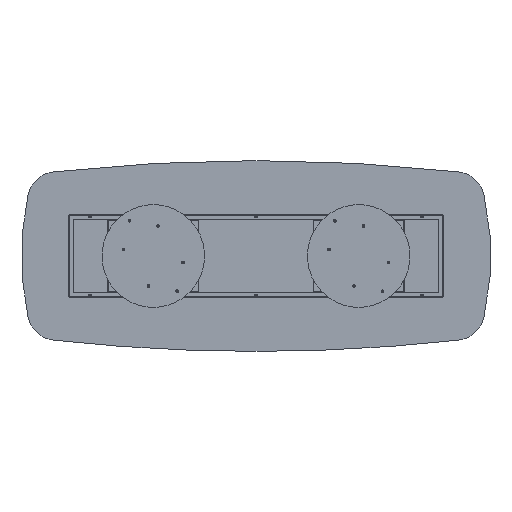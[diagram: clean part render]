
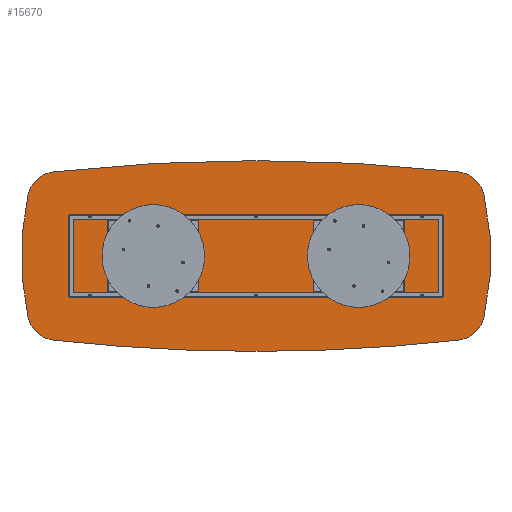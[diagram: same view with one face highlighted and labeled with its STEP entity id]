
A CAD part, front view. The second image highlights one B-rep face of the part: STEP entity #15670.
In plain terms, the highlighted planar face has unit normal (0, -1, 0).
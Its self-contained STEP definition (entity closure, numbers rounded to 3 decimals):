
#286 = EDGE_LOOP ( 'NONE', ( #8666, #2563, #8301, #854, #13738, #19647, #15363, #5436, #17055 ) ) ;
#854 = ORIENTED_EDGE ( 'NONE', *, *, #12388, .T. ) ;
#1102 = VERTEX_POINT ( 'NONE', #16457 ) ;
#1125 = VERTEX_POINT ( 'NONE', #3201 ) ;
#1533 = EDGE_CURVE ( 'NONE', #21020, #6428, #17762, .T. ) ;
#1646 = AXIS2_PLACEMENT_3D ( 'NONE', #3807, #13606, #16624 ) ;
#2068 = DIRECTION ( 'NONE',  ( 0., 1., 0. ) ) ;
#2563 = ORIENTED_EDGE ( 'NONE', *, *, #7789, .T. ) ;
#2568 = CARTESIAN_POINT ( 'NONE',  ( 1380.257, 0., -573.562 ) ) ;
#2873 = CIRCLE ( 'NONE', #14920, 200. ) ;
#3022 = EDGE_CURVE ( 'NONE', #17938, #15419, #19505, .T. ) ;
#3201 = CARTESIAN_POINT ( 'NONE',  ( -1380.257, 0., 573.562 ) ) ;
#3375 = CIRCLE ( 'NONE', #13343, 200. ) ;
#3807 = CARTESIAN_POINT ( 'NONE',  ( 1358.173, 0., 374.785 ) ) ;
#3887 = DIRECTION ( 'NONE',  ( 0., 1., 0. ) ) ;
#4089 = CIRCLE ( 'NONE', #16137, 12500. ) ;
#4235 = CARTESIAN_POINT ( 'NONE',  ( 1380.257, 0., 573.562 ) ) ;
#4825 = CARTESIAN_POINT ( 'NONE',  ( 300., 0., 0. ) ) ;
#5021 = VERTEX_POINT ( 'NONE', #8176 ) ;
#5348 = DIRECTION ( 'NONE',  ( 0., 1., 0. ) ) ;
#5436 = ORIENTED_EDGE ( 'NONE', *, *, #21217, .F. ) ;
#5455 = CARTESIAN_POINT ( 'NONE',  ( -1380.257, 0., -573.562 ) ) ;
#5674 = CIRCLE ( 'NONE', #5691, 12500. ) ;
#5691 = AXIS2_PLACEMENT_3D ( 'NONE', #13647, #5348, #20201 ) ;
#5973 = CIRCLE ( 'NONE', #18014, 12500. ) ;
#6428 = VERTEX_POINT ( 'NONE', #18178 ) ;
#6659 = CARTESIAN_POINT ( 'NONE',  ( -300., 0., 0. ) ) ;
#6919 = PLANE ( 'NONE',  #15426 ) ;
#7080 = DIRECTION ( 'NONE',  ( 0., 1., 0. ) ) ;
#7349 = AXIS2_PLACEMENT_3D ( 'NONE', #4825, #11410, #16339 ) ;
#7789 = EDGE_CURVE ( 'NONE', #1125, #14059, #2873, .T. ) ;
#7917 = CARTESIAN_POINT ( 'NONE',  ( -1553.252, 0., 418.877 ) ) ;
#7976 = EDGE_CURVE ( 'NONE', #5021, #14059, #20049, .T. ) ;
#8176 = CARTESIAN_POINT ( 'NONE',  ( -1553.252, 0., -418.877 ) ) ;
#8301 = ORIENTED_EDGE ( 'NONE', *, *, #7976, .F. ) ;
#8644 = DIRECTION ( 'NONE',  ( 0., 0., 1. ) ) ;
#8657 = EDGE_CURVE ( 'NONE', #1125, #15419, #5973, .T. ) ;
#8666 = ORIENTED_EDGE ( 'NONE', *, *, #8657, .F. ) ;
#8779 = AXIS2_PLACEMENT_3D ( 'NONE', #6659, #7080, #14858 ) ;
#9383 = CARTESIAN_POINT ( 'NONE',  ( -1358.173, 0., 374.785 ) ) ;
#9540 = DIRECTION ( 'NONE',  ( 0., -1., 0. ) ) ;
#11263 = EDGE_CURVE ( 'NONE', #1102, #13375, #5674, .T. ) ;
#11410 = DIRECTION ( 'NONE',  ( 0., 1., 0. ) ) ;
#12192 = CARTESIAN_POINT ( 'NONE',  ( 1553.252, 0., 418.877 ) ) ;
#12388 = EDGE_CURVE ( 'NONE', #5021, #13375, #3375, .T. ) ;
#12738 = DIRECTION ( 'NONE',  ( 0., -1., 0. ) ) ;
#12776 = DIRECTION ( 'NONE',  ( 0., 0., 1. ) ) ;
#13195 = CARTESIAN_POINT ( 'NONE',  ( -1358.173, 0., -374.785 ) ) ;
#13343 = AXIS2_PLACEMENT_3D ( 'NONE', #13195, #19429, #17928 ) ;
#13375 = VERTEX_POINT ( 'NONE', #5455 ) ;
#13606 = DIRECTION ( 'NONE',  ( 0., -1., 0. ) ) ;
#13647 = CARTESIAN_POINT ( 'NONE',  ( 0., 0., 11850. ) ) ;
#13738 = ORIENTED_EDGE ( 'NONE', *, *, #11263, .F. ) ;
#14059 = VERTEX_POINT ( 'NONE', #7917 ) ;
#14704 = CARTESIAN_POINT ( 'NONE',  ( 0., 0., -11850. ) ) ;
#14815 = DIRECTION ( 'NONE',  ( 0., 1., 0. ) ) ;
#14858 = DIRECTION ( 'NONE',  ( 0., 0., 1. ) ) ;
#14920 = AXIS2_PLACEMENT_3D ( 'NONE', #9383, #12738, #15953 ) ;
#15363 = ORIENTED_EDGE ( 'NONE', *, *, #1533, .T. ) ;
#15419 = VERTEX_POINT ( 'NONE', #4235 ) ;
#15426 = AXIS2_PLACEMENT_3D ( 'NONE', #20355, #3887, #17141 ) ;
#15670 = ADVANCED_FACE ( 'NONE', ( #20139 ), #6919, .F. ) ;
#15715 = EDGE_CURVE ( 'NONE', #21020, #1102, #4089, .T. ) ;
#15953 = DIRECTION ( 'NONE',  ( 0., 0., 1. ) ) ;
#15993 = CARTESIAN_POINT ( 'NONE',  ( 1358.173, 0., -374.785 ) ) ;
#16137 = AXIS2_PLACEMENT_3D ( 'NONE', #18319, #2068, #8644 ) ;
#16211 = DIRECTION ( 'NONE',  ( 0., 0., 1. ) ) ;
#16339 = DIRECTION ( 'NONE',  ( 0., 0., 1. ) ) ;
#16457 = CARTESIAN_POINT ( 'NONE',  ( 0., 0., -650. ) ) ;
#16624 = DIRECTION ( 'NONE',  ( 0., 0., 1. ) ) ;
#17006 = CIRCLE ( 'NONE', #8779, 1900. ) ;
#17055 = ORIENTED_EDGE ( 'NONE', *, *, #3022, .T. ) ;
#17141 = DIRECTION ( 'NONE',  ( 0., 0., 1. ) ) ;
#17762 = CIRCLE ( 'NONE', #19469, 200. ) ;
#17928 = DIRECTION ( 'NONE',  ( 0., 0., 1. ) ) ;
#17938 = VERTEX_POINT ( 'NONE', #12192 ) ;
#18014 = AXIS2_PLACEMENT_3D ( 'NONE', #14704, #14815, #16211 ) ;
#18178 = CARTESIAN_POINT ( 'NONE',  ( 1553.252, 0., -418.877 ) ) ;
#18319 = CARTESIAN_POINT ( 'NONE',  ( 0., 0., 11850. ) ) ;
#19429 = DIRECTION ( 'NONE',  ( 0., -1., 0. ) ) ;
#19469 = AXIS2_PLACEMENT_3D ( 'NONE', #15993, #9540, #12776 ) ;
#19505 = CIRCLE ( 'NONE', #1646, 200. ) ;
#19647 = ORIENTED_EDGE ( 'NONE', *, *, #15715, .F. ) ;
#20049 = CIRCLE ( 'NONE', #7349, 1900. ) ;
#20139 = FACE_OUTER_BOUND ( 'NONE', #286, .T. ) ;
#20201 = DIRECTION ( 'NONE',  ( 0., 0., 1. ) ) ;
#20355 = CARTESIAN_POINT ( 'NONE',  ( -150., 0., 5925. ) ) ;
#21020 = VERTEX_POINT ( 'NONE', #2568 ) ;
#21217 = EDGE_CURVE ( 'NONE', #17938, #6428, #17006, .T. ) ;
